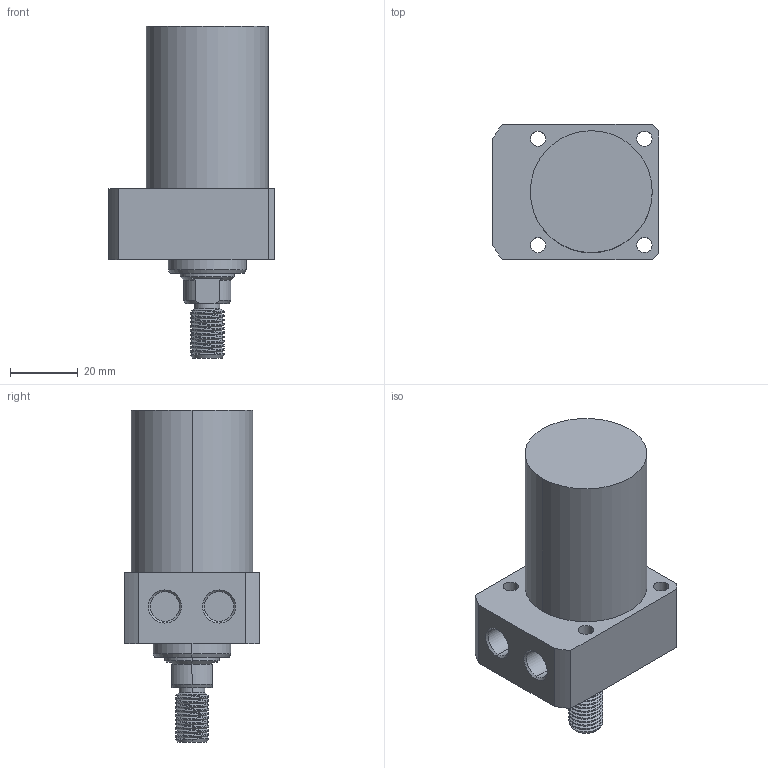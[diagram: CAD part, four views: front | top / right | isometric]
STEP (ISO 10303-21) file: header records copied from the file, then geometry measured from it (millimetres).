
FILE_DESCRIPTION (( 'STEP AP214' ), '1' );
FILE_NAME ('CLLR-036CT-040.STEP', '2020-01-08T10:22:50', ( 'Windows' ), ( 'Microsoft' ), 'SwSTEP 2.0', 'SolidWorks 2015', '' );
FILE_SCHEMA (( 'AUTOMOTIVE_DESIGN' ));
Length unit declared in the file: millimetre
Products named in the file (1): CLLR-036CT-040
Bounding box: 49 x 40 x 98 mm (x, y, z)
Volume: 90878.9 mm3; surface area: 16089.8 mm2
Topology: 1 solids, 1 shells, 89 faces, 223 edges, 144 vertices
Faces by surface type: cylinder 51, plane 21, cone 15, bspline 2
Entity records: 3960 total; most frequent: CARTESIAN_POINT 1826, ORIENTED_EDGE 446, DIRECTION 419, EDGE_CURVE 223, AXIS2_PLACEMENT_3D 164, VERTEX_POINT 144, EDGE_LOOP 105, LINE 91
